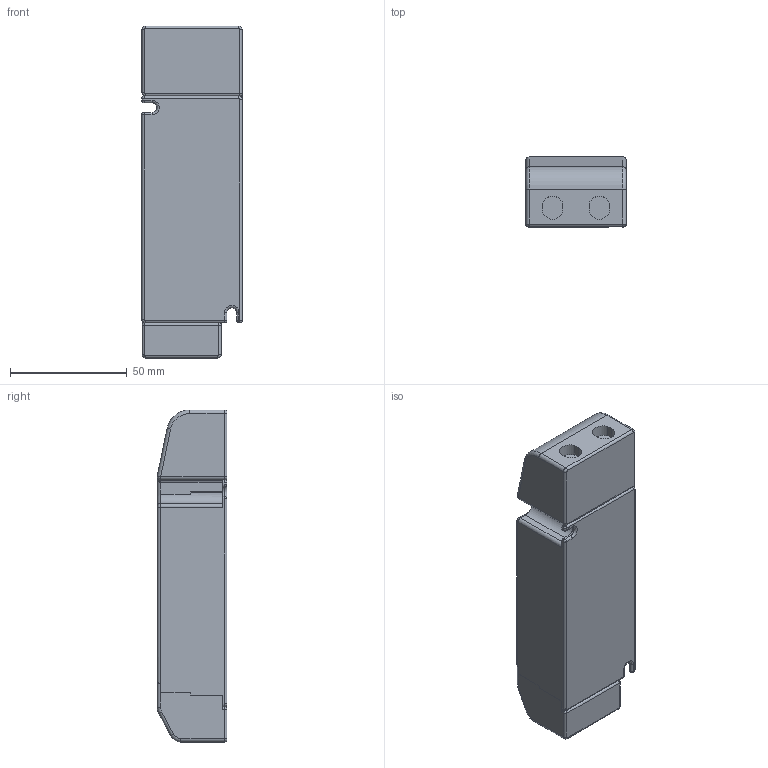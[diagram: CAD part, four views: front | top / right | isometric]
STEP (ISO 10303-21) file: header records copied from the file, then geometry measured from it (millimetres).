
FILE_DESCRIPTION((''),'2;1');
FILE_NAME('15012817_00','2019-03-04T16:19:27',('elon.guo'),(''),'CREO PARAMETRIC BY PTC INC, 2017380','CREO PARAMETRIC BY PTC INC, 2017380','');
FILE_SCHEMA(('AUTOMOTIVE_DESIGN { 1 0 10303 214 1 1 1 1 }'));
Length unit declared in the file: millimetre
Products named in the file (1): 15012817_00
Bounding box: 43 x 29.8 x 142 mm (x, y, z)
Volume: 148252.3 mm3; surface area: 33976.7 mm2
Topology: 1 solids, 1 shells, 527 faces, 1499 edges, 945 vertices
Faces by surface type: plane 328, cylinder 146, cone 16, torus 13, sphere 12, bspline 12
Entity records: 22147 total; most frequent: CARTESIAN_POINT 3570, ORIENTED_EDGE 2942, DIRECTION 2768, PRESENTATION_STYLE_ASSIGNMENT 1472, STYLED_ITEM 1472, CURVE_STYLE 1471, EDGE_CURVE 1471, VECTOR 1076
